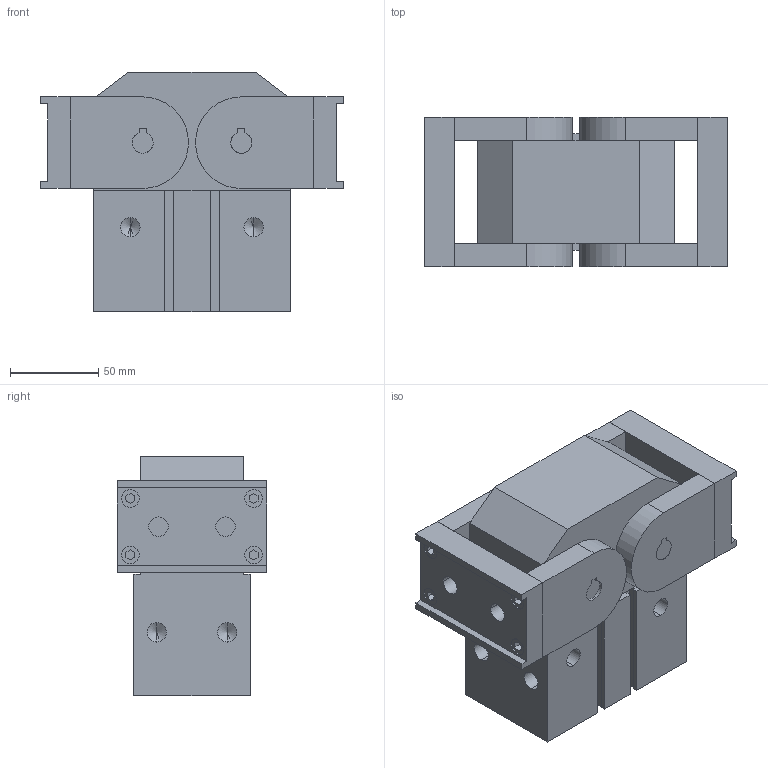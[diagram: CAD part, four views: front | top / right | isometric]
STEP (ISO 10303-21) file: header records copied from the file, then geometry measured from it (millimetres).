
FILE_DESCRIPTION (( 'STEP AP203' ), '1' );
FILE_NAME ('GHK 50 open.STEP', '2013-03-04T09:54:29', ( 'Conseil Régional Haute-Normandie' ), ( 'Conseil Régional Haute-Normandie' ), 'SwSTEP 2.0', 'SolidWorks 2010', '' );
FILE_SCHEMA (( 'CONFIG_CONTROL_DESIGN' ));
Length unit declared in the file: millimetre
Products named in the file (5): Pièce1 ghk_Default; Pièce2 GHK_Default; Pièce2 GHK 50_Default; Pièce3 ghk_Default; GHK 50 open
Assembly tree (9 placements, depth 2):
  GHK 50 open
    Pièce2 GHK 50_Default  x4
    Pièce2 GHK_Default  x2
    Pièce3 ghk_Default  x2
    Pièce1 ghk_Default
Bounding box: 172 x 85 x 136 mm (x, y, z)
Volume: 1176274.7 mm3; surface area: 144248.2 mm2
Topology: 9 solids, 9 shells, 283 faces, 704 edges, 450 vertices
Faces by surface type: plane 189, cylinder 74, cone 20
Entity records: 5947 total; most frequent: DIRECTION 920, CARTESIAN_POINT 917, ORIENTED_EDGE 876, EDGE_CURVE 438, VECTOR 342, LINE 342, AXIS2_PLACEMENT_3D 289, VERTEX_POINT 286
